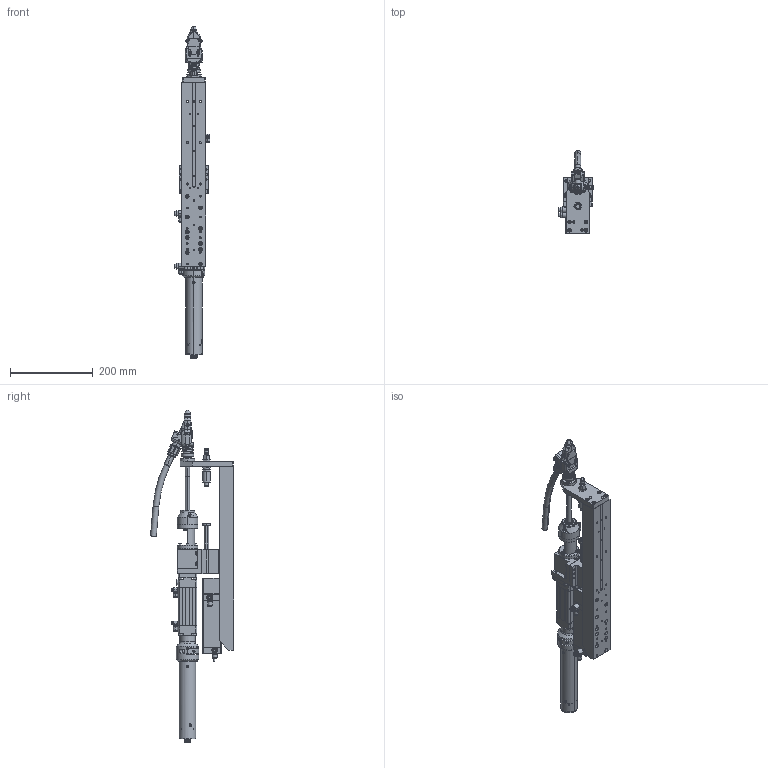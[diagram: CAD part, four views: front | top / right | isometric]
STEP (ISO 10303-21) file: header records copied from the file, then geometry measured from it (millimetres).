
FILE_DESCRIPTION (( 'STEP AP214' ), '1' );
FILE_NAME ('SVP.STEP', '2026-02-03T08:12:33', ( '' ), ( '' ), 'SwSTEP 2.0', 'SolidWorks 2022', '' );
FILE_SCHEMA (( 'AUTOMOTIVE_DESIGN' ));
Length unit declared in the file: millimetre
Products named in the file (1): SVP
Bounding box: 86.46 x 201.37 x 804.9 mm (x, y, z)
Surface area: 427899 mm2 (no closed solid volume)
Topology: 0 solids, 267 shells, 2213 faces, 8277 edges, 6155 vertices
Faces by surface type: plane 968, cylinder 785, cone 336, bspline 100, torus 20, sphere 4
Entity records: 127374 total; most frequent: CARTESIAN_POINT 34570, DIRECTION 14357, ORIENTED_EDGE 12353, EDGE_CURVE 8246, VERTEX_POINT 6150, AXIS2_PLACEMENT_3D 5221, VECTOR 3915, LINE 3915
